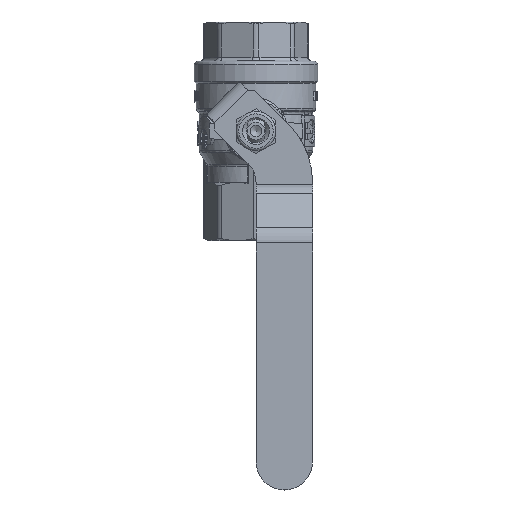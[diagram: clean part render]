
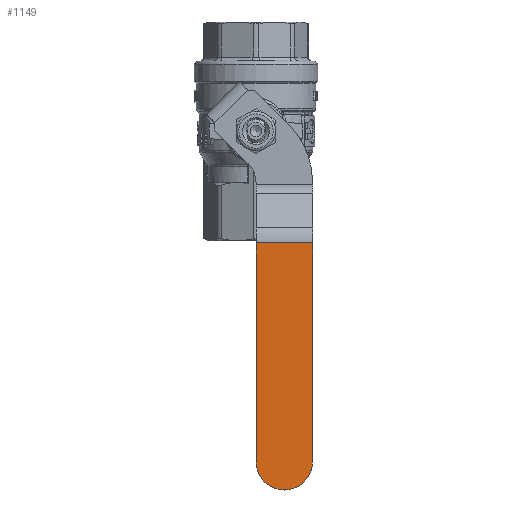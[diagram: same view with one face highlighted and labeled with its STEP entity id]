
A CAD part, top view. The second image highlights one B-rep face of the part: STEP entity #1149.
In plain terms, the highlighted planar face has unit normal (0, 0, 1).
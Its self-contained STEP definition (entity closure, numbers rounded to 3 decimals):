
#1149=ADVANCED_FACE('',(#9464),#9466,.T.);
#9464=FACE_BOUND('',#9465,.T.);
#9465=EDGE_LOOP('',(#17451,#17452,#17453,#17454));
#9466=PLANE('',#9467);
#9467=AXIS2_PLACEMENT_3D('',#9468,#9469,#9470);
#9468=CARTESIAN_POINT('',(0.,-11.525,43.177));
#9469=DIRECTION('',(0.,0.,1.));
#9470=DIRECTION('',(0.,-1.,0.));
#17451=ORIENTED_EDGE('',*,*,#21134,.F.);
#17452=ORIENTED_EDGE('',*,*,#21131,.T.);
#17453=ORIENTED_EDGE('',*,*,#21123,.T.);
#17454=ORIENTED_EDGE('',*,*,#21133,.T.);
#21123=EDGE_CURVE('',#26524,#26532,#26545,.T.);
#21131=EDGE_CURVE('',#26552,#26524,#26554,.T.);
#21133=EDGE_CURVE('',#26532,#26555,#26557,.T.);
#21134=EDGE_CURVE('',#26552,#26555,#26558,.F.);
#26524=VERTEX_POINT('',#49257);
#26532=VERTEX_POINT('',#49277);
#26545=LINE('',#49315,#49316);
#26552=VERTEX_POINT('',#49342);
#26554=LINE('',#49346,#49347);
#26555=VERTEX_POINT('',#49349);
#26557=LINE('',#49353,#49354);
#26558=CIRCLE('',#49356,7.25);
#49257=CARTESIAN_POINT('',(14.5,-44.198,43.177));
#49277=CARTESIAN_POINT('',(0.,-44.198,43.177));
#49315=CARTESIAN_POINT('',(14.5,-44.198,43.177));
#49316=VECTOR('',#49317,1.);
#49317=DIRECTION('',(-1.,0.,0.));
#49342=CARTESIAN_POINT('',(14.5,-100.268,43.177));
#49346=CARTESIAN_POINT('',(14.5,-100.268,43.177));
#49347=VECTOR('',#49348,1.);
#49348=DIRECTION('',(0.,1.,0.));
#49349=CARTESIAN_POINT('',(0.,-100.268,43.177));
#49353=CARTESIAN_POINT('',(0.,-44.198,43.177));
#49354=VECTOR('',#49355,1.);
#49355=DIRECTION('',(0.,-1.,0.));
#49356=AXIS2_PLACEMENT_3D('',#49357,#49358,#49359);
#49357=CARTESIAN_POINT('',(7.25,-100.268,43.177));
#49358=DIRECTION('',(0.,0.,1.));
#49359=DIRECTION('',(-1.,0.,0.));
